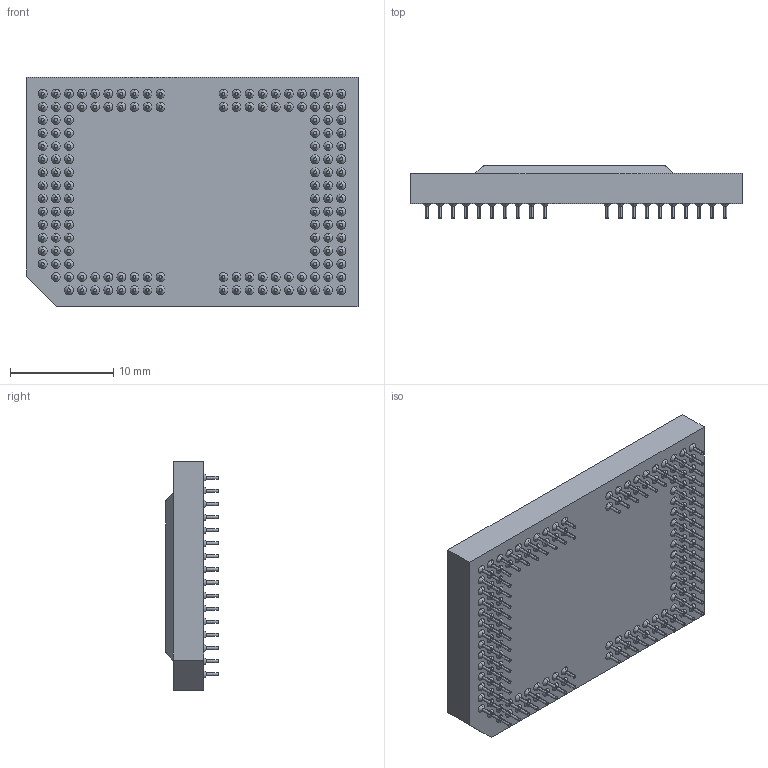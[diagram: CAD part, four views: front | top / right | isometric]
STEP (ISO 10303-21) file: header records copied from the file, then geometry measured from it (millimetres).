
FILE_DESCRIPTION (( 'STEP AP203' ), '1' );
FILE_NAME ('s450-55SVGA-DMD-v2-2512649.STEP', '2013-03-27T14:20:54', ( '' ), ( '' ), 'SwSTEP 2.0', 'SolidWorks 2012', '' );
FILE_SCHEMA (( 'CONFIG_CONTROL_DESIGN' ));
Length unit declared in the file: millimetre
Products named in the file (3): s450-55SVGA-DMD-v2-2512649; s450-55SVGA-Window-v2; s450-55SVGA-Ceramic-v2
Assembly tree (2 placements, depth 2):
  s450-55SVGA-DMD-v2-2512649
    s450-55SVGA-Ceramic-v2
    s450-55SVGA-Window-v2
Bounding box: 32.2 x 5.06 x 22.3 mm (x, y, z)
Volume: 2098.7 mm3; surface area: 2854.8 mm2
Topology: 2 solids, 2 shells, 813 faces, 1647 edges, 996 vertices
Faces by surface type: cylinder 312, cone 298, plane 203
Entity records: 21580 total; most frequent: DIRECTION 4205, CARTESIAN_POINT 3461, ORIENTED_EDGE 3294, AXIS2_PLACEMENT_3D 1740, EDGE_CURVE 1647, VERTEX_POINT 996, EDGE_LOOP 971, CIRCLE 922
